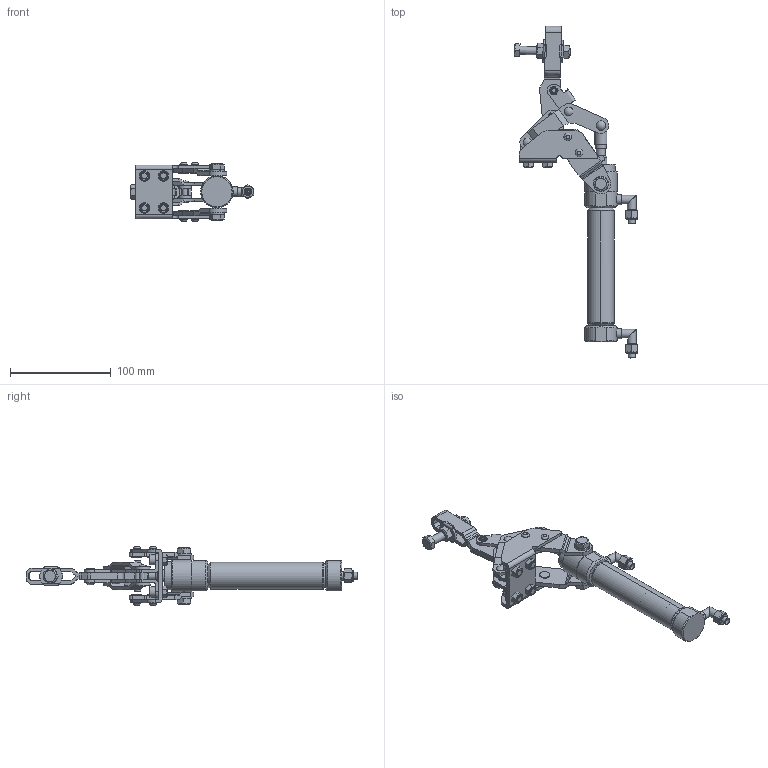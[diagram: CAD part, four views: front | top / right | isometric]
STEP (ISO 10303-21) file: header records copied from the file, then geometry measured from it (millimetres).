
FILE_DESCRIPTION(/* description */ (''),/* implementation_level */ '2;1');
FILE_NAME(/* name */ 'E:\3D作業領域\エアークランプ（スタンダード置替）\AC451Ｖ\No.AC451V(ul).stp',/* time_stamp */ '2024-04-15T15:00:36+09:00',/* author */ ('takahashi'),/* organization */ (''),/* preprocessor_version */ 'ST-DEVELOPER v18.1',/* originating_system */ 'Autodesk Inventor 2020',/* authorisation */ '');
FILE_SCHEMA (('AUTOMOTIVE_DESIGN { 1 0 10303 214 3 1 1 }'));
Length unit declared in the file: millimetre
Products named in the file (32): No.AC451V(ul); AC451フレーム; AC450シリンダー支持ボルト; AC450シリンダー支持ボルト_
1; M8SW; AC451フレームリベット; HV450ベース（リベットアセンブリ済）; HV450ベース; リベット5x12.55; AC451レバー; AC451レバー_1; AC451連結管部リベット; リベット5x19; HV450リンク（リベットアセンブリ済）; HV450リンク; リベット5x12.81; HV450アーム; AC451S AC56Sシリンダー; CMK2-00-25-80-T0H-D-V_6; ニップルL型; ニップルL型_1; 袋ナット; スリーブb; Φ25用取付金具; AC451S AC56S ピストンロッド; AC451S AC56Sピストンロッド; AC56 AC451連結管; キャップスクリューM6; M6ナット; M8×50ボルト; M8ナット; HV450ワッシャー
Assembly tree (44 placements, depth 4):
  No.AC451V(ul)
    AC451フレーム
    AC450シリンダー支持ボルト  x2
      AC450シリンダー支持ボルト_
1
      M8SW
    AC451フレームリベット  x4
    HV450ベース（リベットアセンブリ済）
      HV450ベース
      リベット5x12.55
    AC451レバー
      AC451レバー_1
      AC451連結管部リベット
      リベット5x19  x2
    HV450リンク（リベットアセンブリ済）
      HV450リンク
      リベット5x12.81
    HV450アーム
    AC451S AC56Sシリンダー
      CMK2-00-25-80-T0H-D-V_6
      ニップルL型  x2
        ニップルL型_1
        袋ナット
        スリーブb
      Φ25用取付金具
    AC451S AC56S ピストンロッド
      AC451S AC56Sピストンロッド
      AC56 AC451連結管
    キャップスクリューM6  x4
    M6ナット  x4
    M8×50ボルト
    M8ナット  x2
    HV450ワッシャー
Bounding box: 122.78 x 329.47 x 58.1 mm (x, y, z)
Volume: 164949.9 mm3; surface area: 110096.1 mm2
Topology: 42 solids, 42 shells, 741 faces, 1784 edges, 1187 vertices
Faces by surface type: plane 398, cylinder 251, cone 71, torus 9, bspline 6, sphere 6
Full cylindrical faces by diameter (mm): 3 x2, 3.4 x2, 4 x2, 4.1 x2, 4.5 x4, 4.99 x4, 5 x16, 5.9 x2, 5.99 x1, 6 x22, 6.1 x4, 6.5 x2, 7 x6, 7.1 x4, 7.3 x2, 7.5 x4, 7.647 x1, 8 x7, 8.2 x3, 8.45 x2, 8.5 x6, 9 x2, 9.7 x2, 10 x12, 10.5 x1, 11 x2, 12 x1, 15 x2, 21.8 x1, 26 x1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
Entity records: 19024 total; most frequent: CARTESIAN_POINT 3786, DIRECTION 3136, ORIENTED_EDGE 2794, EDGE_CURVE 1397, AXIS2_PLACEMENT_3D 1201, VERTEX_POINT 927, LINE 734, VECTOR 734
